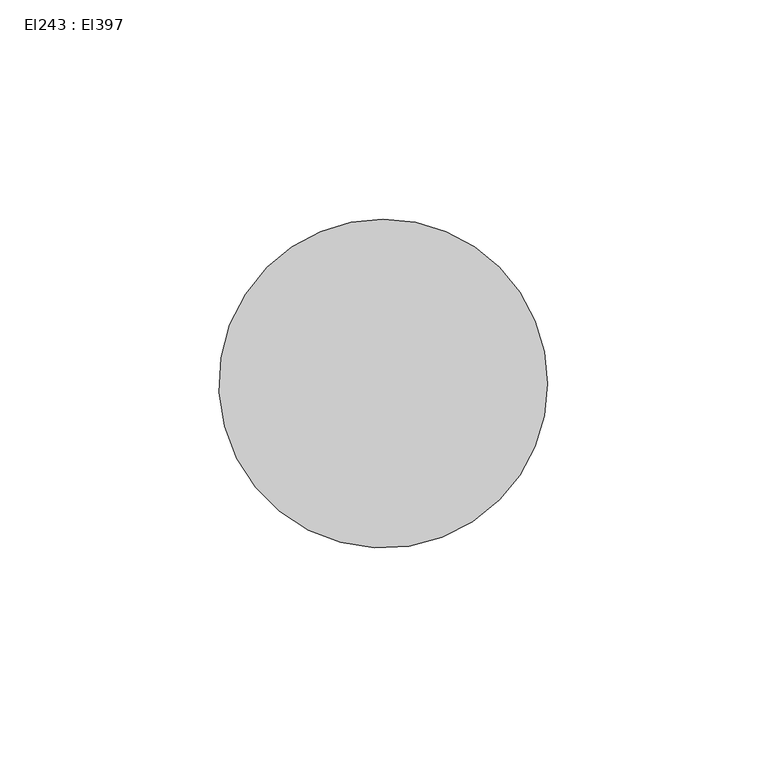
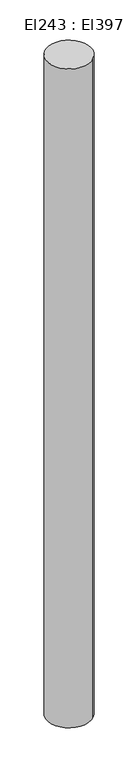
"""IFC4 building model written with IfcOpenShell, lengths in millimetres: cable carrier segment geometry, El243 : El397."""

from ifc_helpers import new_model, si_unit, point, frame, frame_2d, origin, place, context, project, spatial, circle_curve, trimmed, segment, composite_curve, outline, extrude, source, transform, mapped, element, save


def el243_el397_140a4e84(model_context):
    return source(origin(), model_context, "Body", "SweptSolid", [
        extrude(outline(composite_curve([segment(trimmed(circle_curve(frame_2d((23536.7733998, 4616.0134211)), 37.5), [point((23510.2568955, 4642.5299254))], [point((23563.2899041, 4589.4969168))], False, "CARTESIAN"), True, "CONTINUOUS"), segment(trimmed(circle_curve(frame_2d((23536.7733998, 4616.0134211)), 37.5), [point((23563.2899041, 4589.4969168))], [point((23510.2568955, 4642.5299254))], False, "CARTESIAN"), True, "CONTINUOUS")], self_intersect=False)), frame((0.0, 0.0, 1499.9999218), z_axis=(0.0, 0.0, 1.0), x_axis=(1.0, 0.0, 0.0)), (0.0, 0.0, 1.0), 1200.0),
    ])


if __name__ == "__main__":
    model = new_model("IFC4")
    model_context = context("Model", 3, world=origin())
    ifc_project = project(units=[si_unit("LENGTHUNIT", "METRE", prefix="MILLI")], contexts=[model_context])
    site = spatial("IfcSite", under=ifc_project)
    building = spatial("IfcBuilding", under=site)
    placement = place(None, origin())
    el243_el397_shape = el243_el397_140a4e84(model_context)
    element("IfcCableCarrierSegment", 1, ObjectType="El243 : El397", at=placement, inside=building, context=model_context, shape_type="MappedRepresentation", body=[
        mapped(el243_el397_shape, transform((0.0, 0.0, 0.0), x_axis=(1.0, 0.0, 0.0), y_axis=(0.0, 1.0, 0.0), z_axis=(0.0, 0.0, 1.0))),
    ])
    save(model, "model.ifc")
